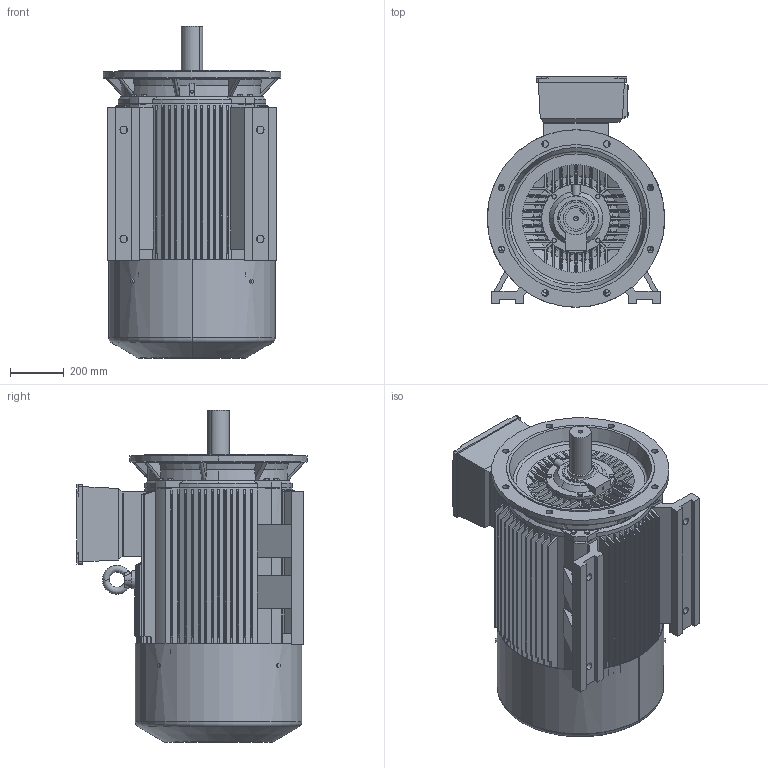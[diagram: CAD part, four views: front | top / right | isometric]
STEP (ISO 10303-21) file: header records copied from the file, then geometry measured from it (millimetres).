
FILE_DESCRIPTION (( 'STEP AP203' ), '1' );
FILE_NAME ('TE3-315S-4,6,8 B35上.STEP', '2019-12-31T00:12:36', ( '微软用户' ), ( '微软中国' ), 'SwSTEP 2.0', 'SolidWorks 2012', '' );
FILE_SCHEMA (( 'CONFIG_CONTROL_DESIGN' ));
Products named in the file (14): TE3-315S-4,6,8 B35奻; YE3-315-4,6,8粣扥; Y2-315-4,6,8,10轴承外盖（轴伸）; hex head bolts-full thread grade c gb_GB_FASTENER_BOLT_HHBFTC M12X30-N; Y2-135 P24諉盄碟; hex head bolts-full thread grade c gb_GB_FASTENER_BOLT_HHBFTC M6X20-N; hex head bolts-full thread grade c gb_GB_FASTENER_BOLT_HHBFTC M10X20-N; 諉盄碟裔 WY315; 諉盄碟釱Y2-315; 蚐戚; eyebolts gb_GB_FASTENER_SCREWS_FRS M30-N; 8SLJ.306.00027（风罩YE3-315-4.6.8）; Y2-315-4,6,8凸缘端盖（带放油孔）; 8LY2.315.034.001(儂釱Y2-315S) 
Assembly tree (30 placements, depth 3):
  TE3-315S-4,6,8 B35奻
    8LY2.315.034.001(儂釱Y2-315S) 
    Y2-315-4,6,8凸缘端盖（带放油孔）
    8SLJ.306.00027（风罩YE3-315-4.6.8）
    eyebolts gb_GB_FASTENER_SCREWS_FRS M30-N
    蚐戚
    Y2-135 P24諉盄碟
      諉盄碟釱Y2-315
      諉盄碟裔 WY315
      hex head bolts-full thread grade c gb_GB_FASTENER_BOLT_HHBFTC M10X20-N  x4
      hex head bolts-full thread grade c gb_GB_FASTENER_BOLT_HHBFTC M6X20-N  x4
    hex head bolts-full thread grade c gb_GB_FASTENER_BOLT_HHBFTC M12X30-N  x8
    hex head bolts-full thread grade c gb_GB_FASTENER_BOLT_HHBFTC M10X20-N  x4
    Y2-315-4,6,8,10轴承外盖（轴伸）
    YE3-315-4,6,8粣扥
Bounding box: 660 x 857.4 x 1235 mm (x, y, z)
Volume: 207853262.6 mm3; surface area: 8750564.2 mm2
Topology: 30 solids, 30 shells, 9280 faces, 24636 edges, 16372 vertices
Faces by surface type: plane 4940, cylinder 3736, cone 344, bspline 146, torus 112, sphere 2
Entity records: 366216 total; most frequent: CARTESIAN_POINT 136109, DIRECTION 47909, ORIENTED_EDGE 47694, EDGE_CURVE 23847, AXIS2_PLACEMENT_3D 16534, VERTEX_POINT 15893, LINE 14841, VECTOR 14841
